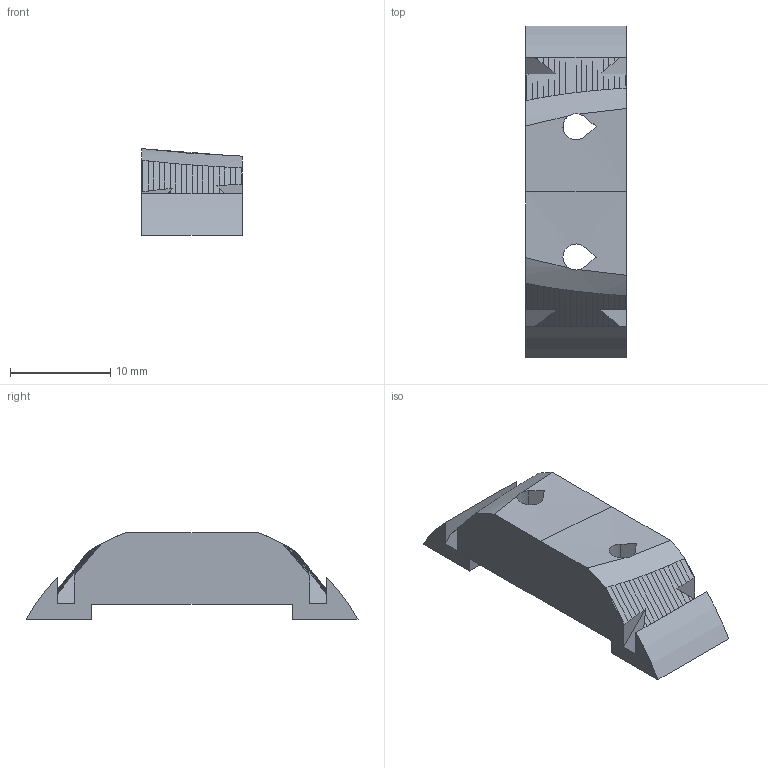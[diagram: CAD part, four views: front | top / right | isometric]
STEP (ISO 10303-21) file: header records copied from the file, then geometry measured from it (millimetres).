
FILE_DESCRIPTION(('SkyG Speed 90B - revision C6B-22 - 2026-10-16','NB1-wing-nut-bar-front'),'2;1');
FILE_NAME('NB1-wing-nut-bar-front_C6B-22','2026-10-16T19:15:21',('Author'),( 'Open CASCADE'),'Open CASCADE STEP processor 7.9','Open CASCADE 7.9' ,'Unknown');
FILE_SCHEMA(('AUTOMOTIVE_DESIGN { 1 0 10303 214 1 1 1 1 }'));
Length unit declared in the file: millimetre
Products named in the file (1): NB1-wing-nut-bar-front C6B-22
Bounding box: 10 x 33.13 x 8.67 mm (x, y, z)
Volume: 1518.6 mm3; surface area: 1356.4 mm2
Topology: 1 solids, 1 shells, 99 faces, 291 edges, 194 vertices
Faces by surface type: bspline 58, plane 35, cylinder 6
Entity records: 10130 total; most frequent: CARTESIAN_POINT 5443, ORIENTED_EDGE 582, PCURVE 582, DEFINITIONAL_REPRESENTATION 582, B_SPLINE_CURVE_WITH_KNOTS 492, DIRECTION 467, LINE 361, VECTOR 361
